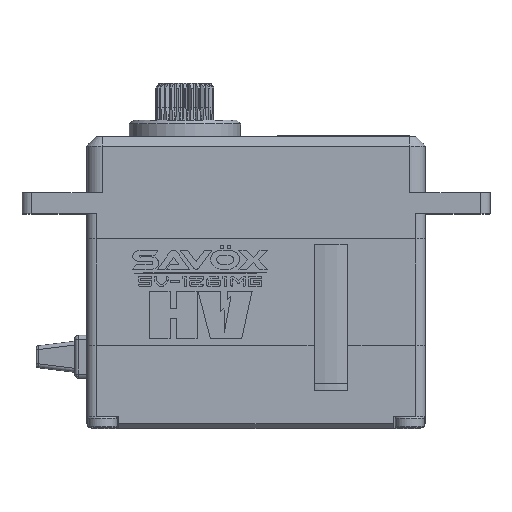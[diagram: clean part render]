
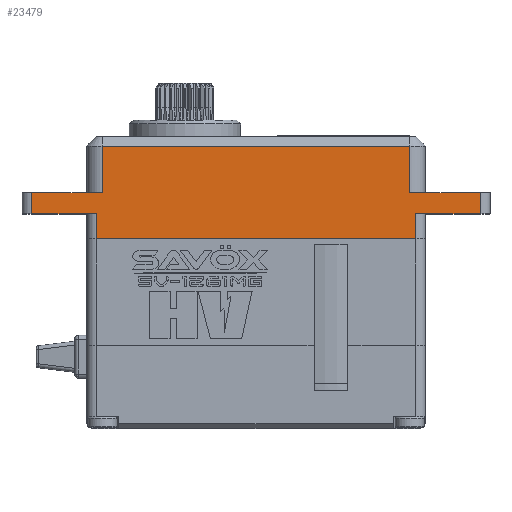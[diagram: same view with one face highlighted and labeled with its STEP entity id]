
A CAD part, top view. The second image highlights one B-rep face of the part: STEP entity #23479.
In plain terms, the highlighted planar face has unit normal (0, 0, 1).
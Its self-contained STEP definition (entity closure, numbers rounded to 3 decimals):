
#57 = DIRECTION ( 'NONE',  ( 1., 0., 0. ) ) ;
#400 = EDGE_LOOP ( 'NONE', ( #13768, #23692, #27521, #32561, #34085, #25719, #37712, #1980, #35625, #34475, #3268, #34114 ) ) ;
#587 = EDGE_CURVE ( 'NONE', #39276, #22915, #16786, .T. ) ;
#1576 = CARTESIAN_POINT ( 'NONE',  ( 24.85, -13.6, 7.5 ) ) ;
#1772 = DIRECTION ( 'NONE',  ( 0., 0., -1. ) ) ;
#1980 = ORIENTED_EDGE ( 'NONE', *, *, #587, .F. ) ;
#2588 = VECTOR ( 'NONE', #30750, 1000. ) ;
#2648 = CARTESIAN_POINT ( 'NONE',  ( -15.85, 2.2, 7.5 ) ) ;
#3223 = CARTESIAN_POINT ( 'NONE',  ( -8.55, 7., 7.5 ) ) ;
#3268 = ORIENTED_EDGE ( 'NONE', *, *, #8234, .F. ) ;
#3361 = DIRECTION ( 'NONE',  ( 1., 0., 0. ) ) ;
#3363 = CARTESIAN_POINT ( 'NONE',  ( 23.85, -13.6, 7.5 ) ) ;
#3764 = DIRECTION ( 'NONE',  ( -1., 0., 0. ) ) ;
#3890 = CARTESIAN_POINT ( 'NONE',  ( 30.55, 0., 7.5 ) ) ;
#5281 = VECTOR ( 'NONE', #38928, 1000. ) ;
#5438 = CARTESIAN_POINT ( 'NONE',  ( 23.85, 0., 7.5 ) ) ;
#5798 = AXIS2_PLACEMENT_3D ( 'NONE', #1576, #1772, #13960 ) ;
#6308 = VECTOR ( 'NONE', #31844, 1000. ) ;
#6900 = CARTESIAN_POINT ( 'NONE',  ( 24.85, 0., 7.5 ) ) ;
#8234 = EDGE_CURVE ( 'NONE', #37506, #11754, #9780, .T. ) ;
#8358 = CARTESIAN_POINT ( 'NONE',  ( 24.85, -2.6, 7.5 ) ) ;
#9780 = LINE ( 'NONE', #34932, #5281 ) ;
#10160 = EDGE_CURVE ( 'NONE', #26425, #11250, #29316, .T. ) ;
#10296 = VECTOR ( 'NONE', #29348, 1000. ) ;
#10349 = VERTEX_POINT ( 'NONE', #33454 ) ;
#11217 = CARTESIAN_POINT ( 'NONE',  ( 24.85, 2.2, 7.5 ) ) ;
#11250 = VERTEX_POINT ( 'NONE', #5438 ) ;
#11513 = LINE ( 'NONE', #8358, #26417 ) ;
#11552 = CARTESIAN_POINT ( 'NONE',  ( 24.85, 0., 7.5 ) ) ;
#11754 = VERTEX_POINT ( 'NONE', #2648 ) ;
#11871 = VERTEX_POINT ( 'NONE', #26920 ) ;
#12884 = VECTOR ( 'NONE', #17714, 1000. ) ;
#13302 = VERTEX_POINT ( 'NONE', #22846 ) ;
#13334 = DIRECTION ( 'NONE',  ( 0., 1., 0. ) ) ;
#13768 = ORIENTED_EDGE ( 'NONE', *, *, #27217, .F. ) ;
#13960 = DIRECTION ( 'NONE',  ( -1., 0., 0. ) ) ;
#14176 = VECTOR ( 'NONE', #3764, 1000. ) ;
#15040 = EDGE_CURVE ( 'NONE', #10349, #16923, #11513, .T. ) ;
#15970 = CARTESIAN_POINT ( 'NONE',  ( 24.85, 7., 7.5 ) ) ;
#16001 = VECTOR ( 'NONE', #37725, 1000. ) ;
#16331 = EDGE_CURVE ( 'NONE', #22915, #25996, #25388, .T. ) ;
#16786 = LINE ( 'NONE', #15970, #26310 ) ;
#16886 = FACE_OUTER_BOUND ( 'NONE', #400, .T. ) ;
#16923 = VERTEX_POINT ( 'NONE', #38198 ) ;
#17054 = CARTESIAN_POINT ( 'NONE',  ( -9.15, 0., 7.5 ) ) ;
#17519 = LINE ( 'NONE', #11217, #12884 ) ;
#17675 = VECTOR ( 'NONE', #57, 1000. ) ;
#17714 = DIRECTION ( 'NONE',  ( 1., 0., 0. ) ) ;
#19600 = CARTESIAN_POINT ( 'NONE',  ( -9.15, -13.6, 7.5 ) ) ;
#19787 = EDGE_CURVE ( 'NONE', #11250, #16923, #41085, .T. ) ;
#20324 = CARTESIAN_POINT ( 'NONE',  ( 30.55, -2.6, 7.5 ) ) ;
#20593 = EDGE_CURVE ( 'NONE', #11871, #26425, #38773, .T. ) ;
#21214 = LINE ( 'NONE', #34556, #17675 ) ;
#22846 = CARTESIAN_POINT ( 'NONE',  ( -8.55, 2.2, 7.5 ) ) ;
#22915 = VERTEX_POINT ( 'NONE', #40249 ) ;
#23479 = ADVANCED_FACE ( 'NONE', ( #16886 ), #33164, .F. ) ;
#23692 = ORIENTED_EDGE ( 'NONE', *, *, #15040, .T. ) ;
#25142 = CARTESIAN_POINT ( 'NONE',  ( -15.85, 0., 7.5 ) ) ;
#25388 = LINE ( 'NONE', #32852, #38789 ) ;
#25693 = VERTEX_POINT ( 'NONE', #17054 ) ;
#25719 = ORIENTED_EDGE ( 'NONE', *, *, #33411, .F. ) ;
#25729 = EDGE_CURVE ( 'NONE', #25693, #37506, #40245, .T. ) ;
#25996 = VERTEX_POINT ( 'NONE', #39793 ) ;
#26014 = EDGE_CURVE ( 'NONE', #13302, #39276, #29336, .T. ) ;
#26310 = VECTOR ( 'NONE', #3361, 1000. ) ;
#26417 = VECTOR ( 'NONE', #34499, 1000. ) ;
#26425 = VERTEX_POINT ( 'NONE', #3890 ) ;
#26426 = CARTESIAN_POINT ( 'NONE',  ( -8.55, -2.6, 7.5 ) ) ;
#26852 = DIRECTION ( 'NONE',  ( 0., -1., 0. ) ) ;
#26920 = CARTESIAN_POINT ( 'NONE',  ( 30.55, 2.2, 7.5 ) ) ;
#27217 = EDGE_CURVE ( 'NONE', #10349, #25693, #36120, .T. ) ;
#27521 = ORIENTED_EDGE ( 'NONE', *, *, #19787, .F. ) ;
#29316 = LINE ( 'NONE', #6900, #14176 ) ;
#29336 = LINE ( 'NONE', #26426, #2588 ) ;
#29348 = DIRECTION ( 'NONE',  ( 0., -1., 0. ) ) ;
#30750 = DIRECTION ( 'NONE',  ( 0., 1., 0. ) ) ;
#31844 = DIRECTION ( 'NONE',  ( 0., -1., 0. ) ) ;
#32216 = VECTOR ( 'NONE', #13334, 1000. ) ;
#32561 = ORIENTED_EDGE ( 'NONE', *, *, #10160, .F. ) ;
#32852 = CARTESIAN_POINT ( 'NONE',  ( 23.25, -2.6, 7.5 ) ) ;
#33164 = PLANE ( 'NONE',  #5798 ) ;
#33411 = EDGE_CURVE ( 'NONE', #25996, #11871, #17519, .T. ) ;
#33454 = CARTESIAN_POINT ( 'NONE',  ( -9.15, -2.6, 7.5 ) ) ;
#34085 = ORIENTED_EDGE ( 'NONE', *, *, #20593, .F. ) ;
#34114 = ORIENTED_EDGE ( 'NONE', *, *, #25729, .F. ) ;
#34475 = ORIENTED_EDGE ( 'NONE', *, *, #38845, .F. ) ;
#34499 = DIRECTION ( 'NONE',  ( 1., 0., 0. ) ) ;
#34556 = CARTESIAN_POINT ( 'NONE',  ( 24.85, 2.2, 7.5 ) ) ;
#34932 = CARTESIAN_POINT ( 'NONE',  ( -15.85, -2.6, 7.5 ) ) ;
#35625 = ORIENTED_EDGE ( 'NONE', *, *, #26014, .F. ) ;
#36120 = LINE ( 'NONE', #19600, #32216 ) ;
#37506 = VERTEX_POINT ( 'NONE', #25142 ) ;
#37712 = ORIENTED_EDGE ( 'NONE', *, *, #16331, .F. ) ;
#37725 = DIRECTION ( 'NONE',  ( -1., 0., 0. ) ) ;
#38198 = CARTESIAN_POINT ( 'NONE',  ( 23.85, -2.6, 7.5 ) ) ;
#38773 = LINE ( 'NONE', #20324, #10296 ) ;
#38789 = VECTOR ( 'NONE', #26852, 1000. ) ;
#38845 = EDGE_CURVE ( 'NONE', #11754, #13302, #21214, .T. ) ;
#38928 = DIRECTION ( 'NONE',  ( 0., 1., 0. ) ) ;
#39276 = VERTEX_POINT ( 'NONE', #3223 ) ;
#39793 = CARTESIAN_POINT ( 'NONE',  ( 23.25, 2.2, 7.5 ) ) ;
#40245 = LINE ( 'NONE', #11552, #16001 ) ;
#40249 = CARTESIAN_POINT ( 'NONE',  ( 23.25, 7., 7.5 ) ) ;
#41085 = LINE ( 'NONE', #3363, #6308 ) ;
